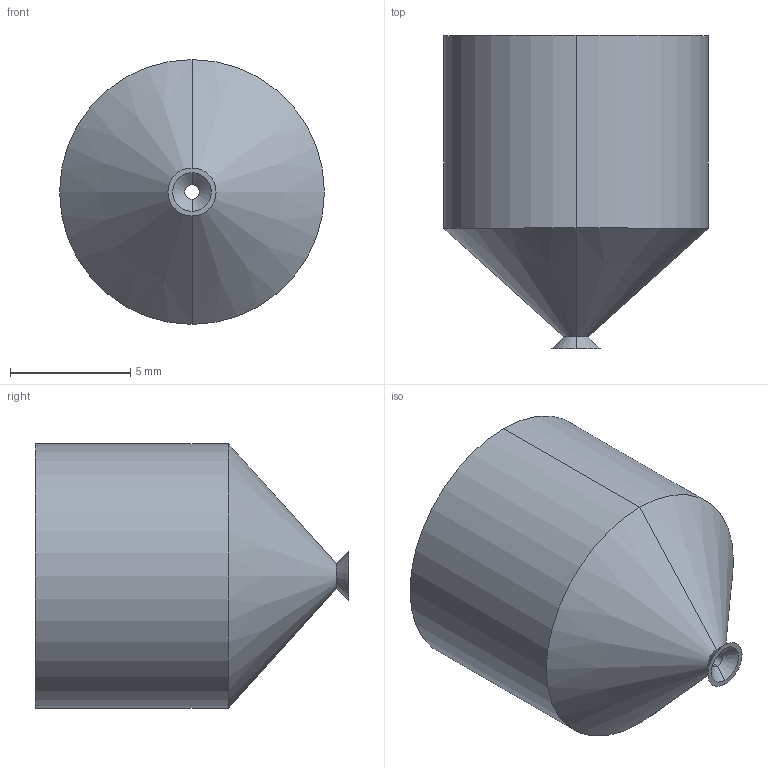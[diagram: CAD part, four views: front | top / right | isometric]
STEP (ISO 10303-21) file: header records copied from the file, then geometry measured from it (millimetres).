
FILE_DESCRIPTION (( 'STEP AP214' ), '1' );
FILE_NAME ('VSH-S2.STEP', '2019-11-30T07:34:28', ( '微软用户' ), ( '微软中国' ), 'SwSTEP 2.0', 'SolidWorks 2016', '' );
FILE_SCHEMA (( 'AUTOMOTIVE_DESIGN' ));
Length unit declared in the file: millimetre
Products named in the file (1): VSH-S2
Bounding box: 11 x 13 x 11 mm (x, y, z)
Volume: 756 mm3; surface area: 654.1 mm2
Topology: 1 solids, 1 shells, 18 faces, 36 edges, 22 vertices
Faces by surface type: cylinder 8, cone 6, plane 4
Entity records: 512 total; most frequent: DIRECTION 96, CARTESIAN_POINT 77, ORIENTED_EDGE 72, AXIS2_PLACEMENT_3D 41, EDGE_CURVE 36, EDGE_LOOP 22, CIRCLE 22, VERTEX_POINT 22
